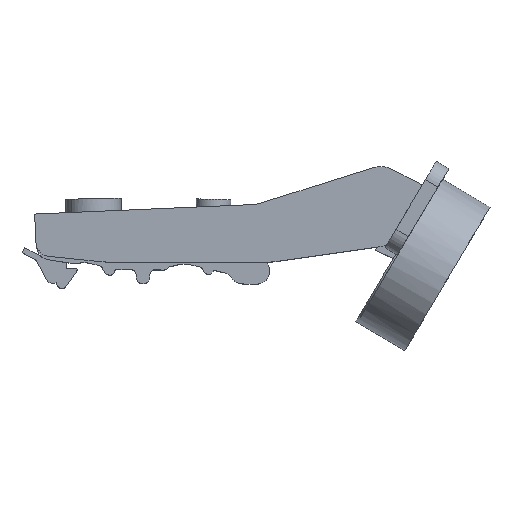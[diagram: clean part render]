
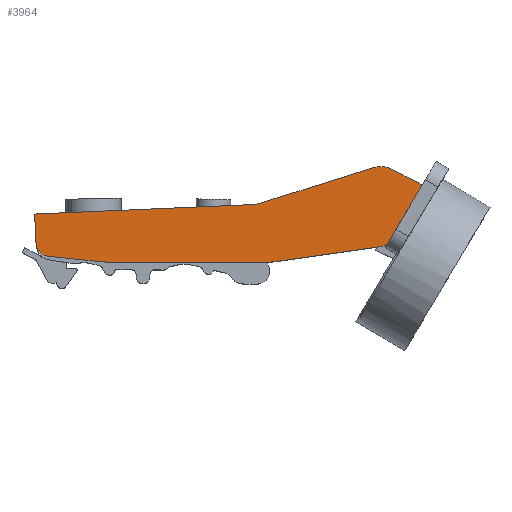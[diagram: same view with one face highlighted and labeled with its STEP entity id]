
A CAD part, top view. The second image highlights one B-rep face of the part: STEP entity #3964.
In plain terms, the highlighted planar face has unit normal (0, 0, 1).
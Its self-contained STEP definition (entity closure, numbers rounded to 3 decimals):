
#55 = ORIENTED_EDGE ( 'NONE', *, *, #1567, .F. ) ;
#58 = VERTEX_POINT ( 'NONE', #1972 ) ;
#80 = VERTEX_POINT ( 'NONE', #217 ) ;
#112 = CARTESIAN_POINT ( 'NONE',  ( -2.033, 12.272, 8.6 ) ) ;
#181 = DIRECTION ( 'NONE',  ( 0., 0., -1. ) ) ;
#189 = AXIS2_PLACEMENT_3D ( 'NONE', #2443, #3512, #676 ) ;
#217 = CARTESIAN_POINT ( 'NONE',  ( -48.74, 4.098, 8.6 ) ) ;
#221 = EDGE_CURVE ( 'NONE', #1006, #2192, #4101, .T. ) ;
#232 = DIRECTION ( 'NONE',  ( 0.999, 0.044, 0. ) ) ;
#267 = CARTESIAN_POINT ( 'NONE',  ( -3.319, 12.045, 8.6 ) ) ;
#277 = CARTESIAN_POINT ( 'NONE',  ( 7.722, 0., 8.6 ) ) ;
#307 = DIRECTION ( 'NONE',  ( 1., 0., 0. ) ) ;
#328 = AXIS2_PLACEMENT_3D ( 'NONE', #2727, #3168, #307 ) ;
#370 = CARTESIAN_POINT ( 'NONE',  ( -1.004, 0., 8.6 ) ) ;
#425 = AXIS2_PLACEMENT_3D ( 'NONE', #3239, #1173, #1891 ) ;
#436 = DIRECTION ( 'NONE',  ( -1., 0., 0. ) ) ;
#522 = CARTESIAN_POINT ( 'NONE',  ( -1.004, 20., 8.6 ) ) ;
#670 = EDGE_CURVE ( 'NONE', #58, #948, #1698, .T. ) ;
#676 = DIRECTION ( 'NONE',  ( 0., -1., 0. ) ) ;
#678 = ORIENTED_EDGE ( 'NONE', *, *, #1818, .F. ) ;
#697 = AXIS2_PLACEMENT_3D ( 'NONE', #522, #181, #1642 ) ;
#762 = CIRCLE ( 'NONE', #328, 10. ) ;
#828 = CARTESIAN_POINT ( 'NONE',  ( 25.524, 19.425, 8.6 ) ) ;
#843 = DIRECTION ( 'NONE',  ( 0., 0., 1. ) ) ;
#862 = PLANE ( 'NONE',  #4289 ) ;
#889 = CARTESIAN_POINT ( 'NONE',  ( 22.732, 3.201, 8.6 ) ) ;
#926 = VERTEX_POINT ( 'NONE', #1116 ) ;
#941 = VERTEX_POINT ( 'NONE', #4321 ) ;
#945 = EDGE_CURVE ( 'NONE', #2232, #1006, #2814, .T. ) ;
#948 = VERTEX_POINT ( 'NONE', #3913 ) ;
#1006 = VERTEX_POINT ( 'NONE', #2954 ) ;
#1022 = ORIENTED_EDGE ( 'NONE', *, *, #3121, .F. ) ;
#1028 = DIRECTION ( 'NONE',  ( 1., 0., 0. ) ) ;
#1050 = AXIS2_PLACEMENT_3D ( 'NONE', #4275, #843, #436 ) ;
#1116 = CARTESIAN_POINT ( 'NONE',  ( -3.319, 12.045, 8.6 ) ) ;
#1168 = DIRECTION ( 'NONE',  ( 0., -1., 0. ) ) ;
#1173 = DIRECTION ( 'NONE',  ( 0., 0., -1. ) ) ;
#1195 = EDGE_CURVE ( 'NONE', #4309, #58, #3428, .T. ) ;
#1229 = LINE ( 'NONE', #3660, #2240 ) ;
#1230 = CIRCLE ( 'NONE', #1814, 5. ) ;
#1283 = ORIENTED_EDGE ( 'NONE', *, *, #1483, .F. ) ;
#1319 = VERTEX_POINT ( 'NONE', #3979 ) ;
#1331 = VERTEX_POINT ( 'NONE', #112 ) ;
#1354 = CIRCLE ( 'NONE', #189, 5. ) ;
#1381 = EDGE_CURVE ( 'NONE', #1331, #941, #2518, .T. ) ;
#1391 = ORIENTED_EDGE ( 'NONE', *, *, #3396, .F. ) ;
#1458 = DIRECTION ( 'NONE',  ( -0.044, 0.999, 0. ) ) ;
#1463 = CARTESIAN_POINT ( 'NONE',  ( -2.033, 12.272, 8.6 ) ) ;
#1480 = CARTESIAN_POINT ( 'NONE',  ( -48.852, 6.652, 8.6 ) ) ;
#1482 = ORIENTED_EDGE ( 'NONE', *, *, #670, .F. ) ;
#1483 = EDGE_CURVE ( 'NONE', #2725, #3614, #1229, .T. ) ;
#1510 = DIRECTION ( 'NONE',  ( 0.954, 0.301, 0. ) ) ;
#1521 = ORIENTED_EDGE ( 'NONE', *, *, #1587, .F. ) ;
#1544 = EDGE_CURVE ( 'NONE', #1319, #926, #3703, .T. ) ;
#1554 = LINE ( 'NONE', #3080, #1654 ) ;
#1567 = EDGE_CURVE ( 'NONE', #3614, #2192, #3691, .T. ) ;
#1573 = DIRECTION ( 'NONE',  ( 1., 0., 0. ) ) ;
#1587 = EDGE_CURVE ( 'NONE', #926, #1331, #1354, .T. ) ;
#1592 = ORIENTED_EDGE ( 'NONE', *, *, #1613, .T. ) ;
#1613 = EDGE_CURVE ( 'NONE', #2725, #948, #762, .T. ) ;
#1642 = DIRECTION ( 'NONE',  ( 1., 0., 0. ) ) ;
#1654 = VECTOR ( 'NONE', #3416, 1000. ) ;
#1686 = CARTESIAN_POINT ( 'NONE',  ( -35.774, 0.164, 8.6 ) ) ;
#1698 = LINE ( 'NONE', #4061, #4079 ) ;
#1814 = AXIS2_PLACEMENT_3D ( 'NONE', #2870, #4283, #1168 ) ;
#1818 = EDGE_CURVE ( 'NONE', #80, #1319, #2854, .T. ) ;
#1854 = ORIENTED_EDGE ( 'NONE', *, *, #1195, .F. ) ;
#1891 = DIRECTION ( 'NONE',  ( 1., 0., 0. ) ) ;
#1963 = DIRECTION ( 'NONE',  ( -0.99, -0.142, 0. ) ) ;
#1972 = CARTESIAN_POINT ( 'NONE',  ( 31.904, 16.103, 8.6 ) ) ;
#2024 = CARTESIAN_POINT ( 'NONE',  ( -46.057, 1.245, 8.6 ) ) ;
#2035 = CARTESIAN_POINT ( 'NONE',  ( 25.524, 19.425, 8.6 ) ) ;
#2152 = VECTOR ( 'NONE', #2410, 1000. ) ;
#2192 = VERTEX_POINT ( 'NONE', #370 ) ;
#2232 = VERTEX_POINT ( 'NONE', #1686 ) ;
#2240 = VECTOR ( 'NONE', #1963, 1000. ) ;
#2268 = CARTESIAN_POINT ( 'NONE',  ( 26.107, 10.511, 8.6 ) ) ;
#2316 = EDGE_CURVE ( 'NONE', #941, #4309, #1230, .T. ) ;
#2404 = CIRCLE ( 'NONE', #425, 3. ) ;
#2410 = DIRECTION ( 'NONE',  ( 0.887, -0.462, 0. ) ) ;
#2443 = CARTESIAN_POINT ( 'NONE',  ( -3.537, 17.04, 8.6 ) ) ;
#2453 = VECTOR ( 'NONE', #1510, 1000. ) ;
#2481 = ORIENTED_EDGE ( 'NONE', *, *, #221, .T. ) ;
#2518 = LINE ( 'NONE', #1463, #2453 ) ;
#2633 = ORIENTED_EDGE ( 'NONE', *, *, #2316, .F. ) ;
#2725 = VERTEX_POINT ( 'NONE', #889 ) ;
#2727 = CARTESIAN_POINT ( 'NONE',  ( 21.312, 13.1, 8.6 ) ) ;
#2768 = VECTOR ( 'NONE', #1028, 1000. ) ;
#2788 = ORIENTED_EDGE ( 'NONE', *, *, #1544, .F. ) ;
#2814 = CIRCLE ( 'NONE', #1050, 30. ) ;
#2821 = VECTOR ( 'NONE', #1458, 1000. ) ;
#2837 = ORIENTED_EDGE ( 'NONE', *, *, #945, .T. ) ;
#2854 = LINE ( 'NONE', #1480, #2821 ) ;
#2870 = CARTESIAN_POINT ( 'NONE',  ( 23.215, 14.99, 8.6 ) ) ;
#2954 = CARTESIAN_POINT ( 'NONE',  ( -32.638, 0., 8.6 ) ) ;
#2979 = ORIENTED_EDGE ( 'NONE', *, *, #1381, .F. ) ;
#3080 = CARTESIAN_POINT ( 'NONE',  ( -38.629, 0.464, 8.6 ) ) ;
#3121 = EDGE_CURVE ( 'NONE', #2232, #4146, #1554, .T. ) ;
#3168 = DIRECTION ( 'NONE',  ( 0., 0., 1. ) ) ;
#3239 = CARTESIAN_POINT ( 'NONE',  ( -45.743, 4.229, 8.6 ) ) ;
#3324 = VECTOR ( 'NONE', #232, 1000. ) ;
#3328 = EDGE_LOOP ( 'NONE', ( #2788, #678, #1391, #1022, #2837, #2481, #55, #1283, #1592, #1482, #1854, #2633, #2979, #1521 ) ) ;
#3396 = EDGE_CURVE ( 'NONE', #4146, #80, #2404, .T. ) ;
#3399 = CARTESIAN_POINT ( 'NONE',  ( 1.836, 0.203, 8.6 ) ) ;
#3416 = DIRECTION ( 'NONE',  ( -0.995, 0.105, 0. ) ) ;
#3428 = LINE ( 'NONE', #2035, #2152 ) ;
#3512 = DIRECTION ( 'NONE',  ( 0., 0., 1. ) ) ;
#3614 = VERTEX_POINT ( 'NONE', #3399 ) ;
#3656 = DIRECTION ( 'NONE',  ( 0., 0., 1. ) ) ;
#3660 = CARTESIAN_POINT ( 'NONE',  ( 22.732, 3.201, 8.6 ) ) ;
#3691 = CIRCLE ( 'NONE', #697, 20. ) ;
#3703 = LINE ( 'NONE', #267, #3324 ) ;
#3913 = CARTESIAN_POINT ( 'NONE',  ( 24.492, 3.619, 8.6 ) ) ;
#3964 = ADVANCED_FACE ( 'NONE', ( #4334 ), #862, .T. ) ;
#3979 = CARTESIAN_POINT ( 'NONE',  ( -49., 10.05, 8.6 ) ) ;
#4061 = CARTESIAN_POINT ( 'NONE',  ( 27.939, 9.424, 8.6 ) ) ;
#4079 = VECTOR ( 'NONE', #4432, 1000. ) ;
#4101 = LINE ( 'NONE', #277, #2768 ) ;
#4146 = VERTEX_POINT ( 'NONE', #2024 ) ;
#4275 = CARTESIAN_POINT ( 'NONE',  ( -32.638, 30., 8.6 ) ) ;
#4283 = DIRECTION ( 'NONE',  ( 0., 0., -1. ) ) ;
#4289 = AXIS2_PLACEMENT_3D ( 'NONE', #2268, #3656, #1573 ) ;
#4309 = VERTEX_POINT ( 'NONE', #828 ) ;
#4321 = CARTESIAN_POINT ( 'NONE',  ( 21.712, 19.758, 8.6 ) ) ;
#4334 = FACE_OUTER_BOUND ( 'NONE', #3328, .T. ) ;
#4432 = DIRECTION ( 'NONE',  ( -0.511, -0.86, 0. ) ) ;
